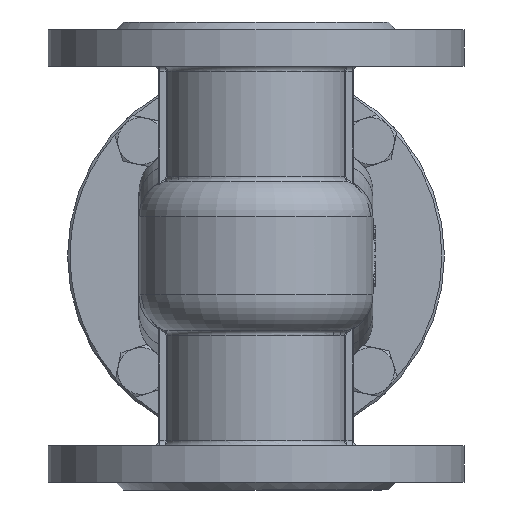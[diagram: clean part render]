
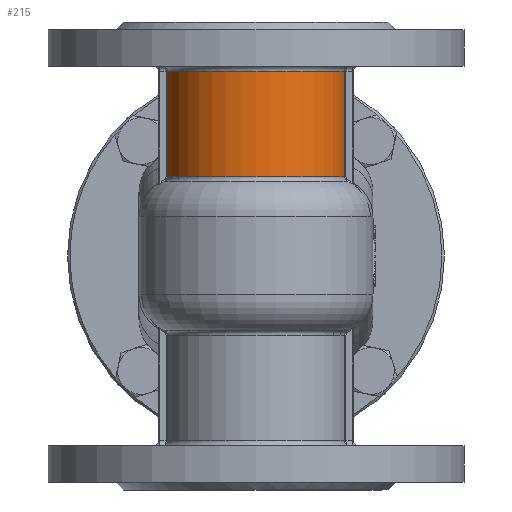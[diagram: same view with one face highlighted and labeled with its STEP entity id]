
A CAD part, front view. The second image highlights one B-rep face of the part: STEP entity #215.
In plain terms, the highlighted cylindrical face has radius 35 mm (diameter 70 mm), a partial arc.
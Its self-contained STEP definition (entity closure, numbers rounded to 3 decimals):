
#215=ADVANCED_FACE('',(#6389),#6391,.T.);
#6389=FACE_BOUND('',#6390,.T.);
#6390=EDGE_LOOP('',(#15345,#15346,#15347,#15348));
#6391=CYLINDRICAL_SURFACE('',#6392,35.);
#6392=AXIS2_PLACEMENT_3D('',#6393,#6394,#6395);
#6393=CARTESIAN_POINT('',(0.,0.,74.));
#6394=DIRECTION('',(0.,0.,1.));
#6395=DIRECTION('',(1.,0.,0.));
#15345=ORIENTED_EDGE('',*,*,#18594,.F.);
#15346=ORIENTED_EDGE('',*,*,#18563,.T.);
#15347=ORIENTED_EDGE('',*,*,#18595,.T.);
#15348=ORIENTED_EDGE('',*,*,#18565,.T.);
#18563=EDGE_CURVE('',#20190,#20194,#20196,.T.);
#18565=EDGE_CURVE('',#20200,#20197,#20201,.T.);
#18594=EDGE_CURVE('',#20190,#20197,#20252,.T.);
#18595=EDGE_CURVE('',#20194,#20200,#20253,.T.);
#20190=VERTEX_POINT('',#22851);
#20194=VERTEX_POINT('',#22860);
#20196=LINE('',#22865,#22866);
#20197=VERTEX_POINT('',#22868);
#20200=VERTEX_POINT('',#22874);
#20201=LINE('',#22875,#22876);
#20252=CIRCLE('',#23082,35.);
#20253=CIRCLE('',#23086,35.);
#22851=CARTESIAN_POINT('',(-34.1,-7.887,71.));
#22860=CARTESIAN_POINT('',(-34.1,-7.887,30.492));
#22865=CARTESIAN_POINT('',(-34.1,-7.887,71.));
#22866=VECTOR('',#22867,1.);
#22867=DIRECTION('',(0.,0.,-1.));
#22868=CARTESIAN_POINT('',(34.1,-7.887,71.));
#22874=CARTESIAN_POINT('',(34.1,-7.887,30.492));
#22875=CARTESIAN_POINT('',(34.1,-7.887,30.492));
#22876=VECTOR('',#22877,1.);
#22877=DIRECTION('',(0.,0.,1.));
#23082=AXIS2_PLACEMENT_3D('',#23083,#23084,#23085);
#23083=CARTESIAN_POINT('',(0.,0.,71.));
#23084=DIRECTION('',(0.,0.,1.));
#23085=DIRECTION('',(-0.974,-0.225,0.));
#23086=AXIS2_PLACEMENT_3D('',#23087,#23088,#23089);
#23087=CARTESIAN_POINT('',(0.,0.,30.492));
#23088=DIRECTION('',(0.,0.,1.));
#23089=DIRECTION('',(-0.974,-0.225,0.));
